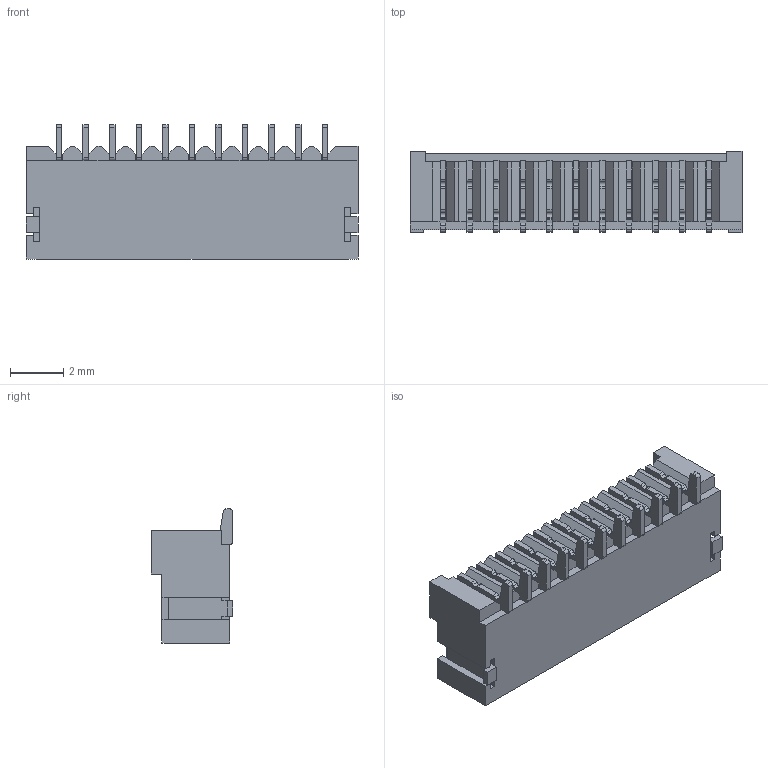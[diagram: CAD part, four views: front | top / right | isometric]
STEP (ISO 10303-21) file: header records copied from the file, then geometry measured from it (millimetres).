
FILE_DESCRIPTION(('CATIA V5 STEP Exchange'),'2;1');
FILE_NAME('\\Erp\共享文件夹\3D文件\小覃\条形连接器-小黄\1.0系列\德利\NH1.0\NPWT\HC-NH1.0-11PWT-05(1.0 单排 卧贴-HCTL).stp','2025-03-08T03:37:55+00:00',('none'),('none'),'CATIA Version 5 Release 20 GA (IN-10)','CATIA V5 STEP AP203','none');
FILE_SCHEMA(('CONFIG_CONTROL_DESIGN'));
Length unit declared in the file: millimetre
Products named in the file (1): Part2
Bounding box: 12.5 x 3.06 x 5.05 mm (x, y, z)
Volume: 72.6 mm3; surface area: 466.7 mm2
Topology: 14 solids, 14 shells, 544 faces, 1609 edges, 1068 vertices
Faces by surface type: plane 412, cylinder 132
Entity records: 15919 total; most frequent: ORIENTED_EDGE 3218, CARTESIAN_POINT 2836, DIRECTION 1913, EDGE_CURVE 1609, VECTOR 1341, LINE 1341, VERTEX_POINT 1068, EDGE_LOOP 567
